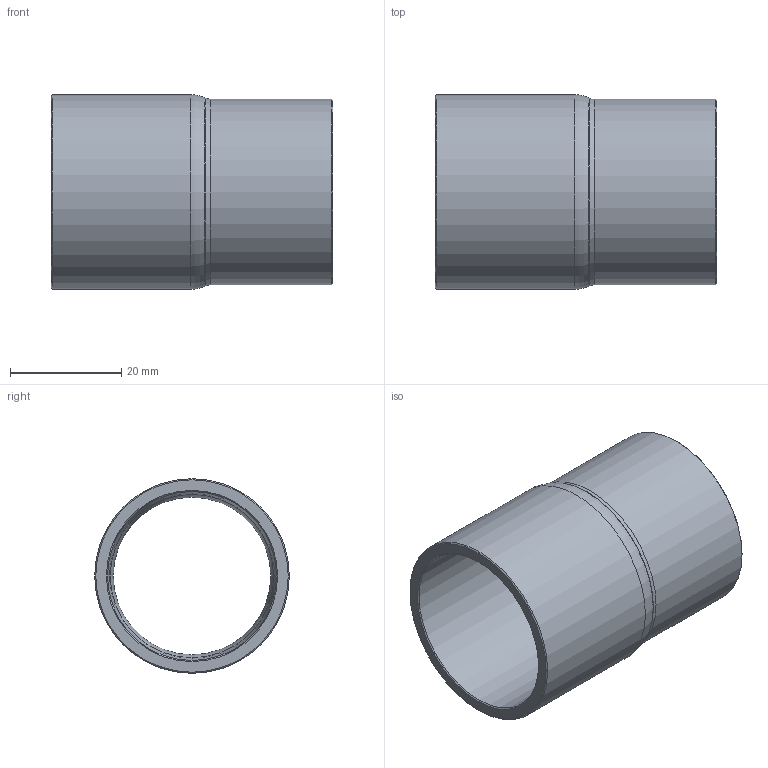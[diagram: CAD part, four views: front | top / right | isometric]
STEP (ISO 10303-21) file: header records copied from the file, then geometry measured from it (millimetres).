
FILE_DESCRIPTION((''),'2;1');
FILE_NAME('G:\SANHA-Ternat\Technik\Management\Bouwmaten + markeringen\z-maattekeningen 3D\29000s\29243138118_3d.stp','2017-08-03T16:21:09',('vdvijverd'),(''),'Autodesk Inventor 2009','Autodesk Inventor 2009','');
FILE_SCHEMA(('AUTOMOTIVE_DESIGN { 1 0 10303 214 1 1 1 1 }'));
Length unit declared in the file: millimetre
Products named in the file (1): 29243138118_3d
Bounding box: 50.5 x 34.92 x 34.92 mm (x, y, z)
Volume: 11707 mm3; surface area: 10633.4 mm2
Topology: 1 solids, 1 shells, 17 faces, 32 edges, 17 vertices
Faces by surface type: cone 6, cylinder 4, bspline 3, plane 2, torus 2
Full cylindrical faces by diameter (mm): 28.725 x1, 30.325 x1, 33.325 x1, 34.925 x1
Entity records: 494 total; most frequent: CARTESIAN_POINT 184, DIRECTION 64, ORIENTED_EDGE 34, EDGE_LOOP 34, AXIS2_PLACEMENT_3D 32, VERTEX_POINT 17, CIRCLE 17, EDGE_CURVE 17
